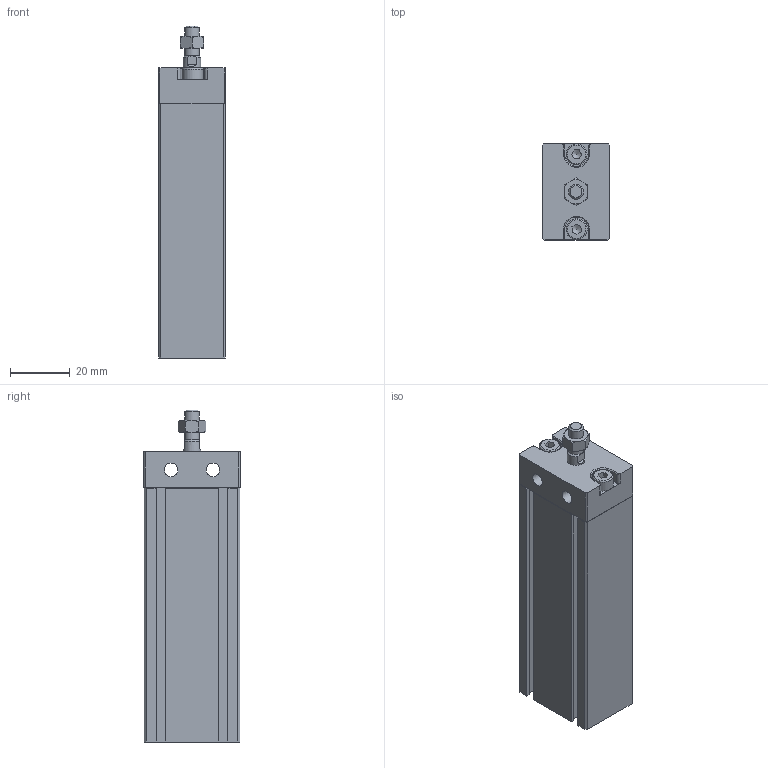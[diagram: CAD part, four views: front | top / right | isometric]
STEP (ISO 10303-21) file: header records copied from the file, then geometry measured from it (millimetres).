
FILE_DESCRIPTION((''),'2;1');
FILE_NAME('I:\3D電子目錄\氣缸\ND\ND\ND16-B\ND16x60-B.stp','2007-07-23T19:23:47',('Administrator'),(''),'Autodesk Inventor 11','Autodesk Inventor 11','');
FILE_SCHEMA(('AUTOMOTIVE_DESIGN { 1 0 10303 214 1 1 1 1 }'));
Length unit declared in the file: millimetre
Products named in the file (4): ND16-B; R 形環 18; ISO 4762 M4 x 10
Assembly tree (4 placements, depth 2):
  ND16-B
    ND16-B
    R 形環 18
    ISO 4762 M4 x 10  x2
Bounding box: 22.4 x 32.1 x 111 mm (x, y, z)
Volume: 60418 mm3; surface area: 19213.2 mm2
Topology: 5 solids, 5 shells, 190 faces, 450 edges, 285 vertices
Faces by surface type: plane 117, cylinder 28, cone 28, bspline 14, torus 3
Full cylindrical faces by diameter (mm): 1.5 x4, 4 x2, 4.5 x2, 5 x2, 6 x1, 7 x2, 10 x1, 18 x1, 19 x1
Entity records: 5015 total; most frequent: CARTESIAN_POINT 1070, DIRECTION 784, ORIENTED_EDGE 754, EDGE_CURVE 377, AXIS2_PLACEMENT_3D 271, VERTEX_POINT 259, VECTOR 242, LINE 242
